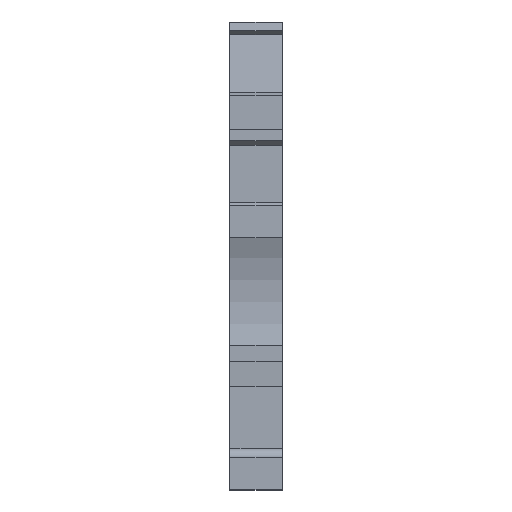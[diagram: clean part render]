
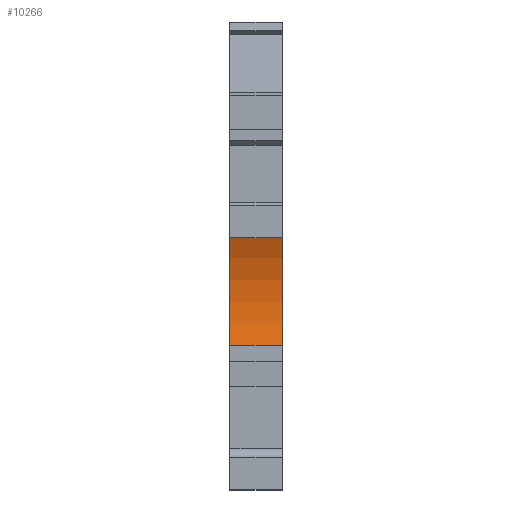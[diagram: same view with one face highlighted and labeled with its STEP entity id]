
A CAD part, front view. The second image highlights one B-rep face of the part: STEP entity #10266.
In plain terms, the highlighted cylindrical face has radius 15 mm (diameter 30 mm), a partial arc.
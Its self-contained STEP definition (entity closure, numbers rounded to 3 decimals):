
#791=CARTESIAN_POINT('',(5.15,0.,24.838));
#792=VERTEX_POINT('',#791);
#799=CARTESIAN_POINT('',(5.15,0.6,14.25));
#800=VERTEX_POINT('',#799);
#801=CARTESIAN_POINT('',(5.15,-13.709,18.75));
#802=DIRECTION('',(1.,0.,0.));
#803=DIRECTION('',(0.,0.,-1.));
#804=AXIS2_PLACEMENT_3D('',#801,#802,#803);
#805=CIRCLE('',#804,15.);
#806=EDGE_CURVE('',#800,#792,#805,.T.);
#1232=CARTESIAN_POINT('',(0.,0.6,14.25));
#1233=VERTEX_POINT('',#1232);
#1240=CARTESIAN_POINT('',(0.,0.,24.838));
#1241=VERTEX_POINT('',#1240);
#1242=CARTESIAN_POINT('',(0.,-13.709,18.75));
#1243=DIRECTION('',(1.,0.,0.));
#1244=DIRECTION('',(0.,0.,-1.));
#1245=AXIS2_PLACEMENT_3D('',#1242,#1243,#1244);
#1246=CIRCLE('',#1245,15.);
#1247=EDGE_CURVE('',#1233,#1241,#1246,.T.);
#2945=CARTESIAN_POINT('',(0.,0.6,14.25));
#2946=DIRECTION('',(1.,0.,0.));
#2947=VECTOR('',#2946,5.15);
#2948=LINE('',#2945,#2947);
#2949=EDGE_CURVE('',#1233,#800,#2948,.T.);
#2960=CARTESIAN_POINT('',(0.,-0.,24.838));
#2961=DIRECTION('',(1.,0.,0.));
#2962=VECTOR('',#2961,5.15);
#2963=LINE('',#2960,#2962);
#2964=EDGE_CURVE('',#1241,#792,#2963,.T.);
#10255=CARTESIAN_POINT('',(0.,-13.709,18.75));
#10256=DIRECTION('',(1.,0.,0.));
#10257=DIRECTION('',(0.,0.,-1.));
#10258=AXIS2_PLACEMENT_3D('',#10255,#10256,#10257);
#10259=CYLINDRICAL_SURFACE('',#10258,15.);
#10260=ORIENTED_EDGE('',*,*,#2949,.T.);
#10261=ORIENTED_EDGE('',*,*,#806,.T.);
#10262=ORIENTED_EDGE('',*,*,#2964,.F.);
#10263=ORIENTED_EDGE('',*,*,#1247,.F.);
#10264=EDGE_LOOP('',(#10260,#10261,#10262,#10263));
#10265=FACE_BOUND('',#10264,.T.);
#10266=ADVANCED_FACE('',(#10265),#10259,.F.);
